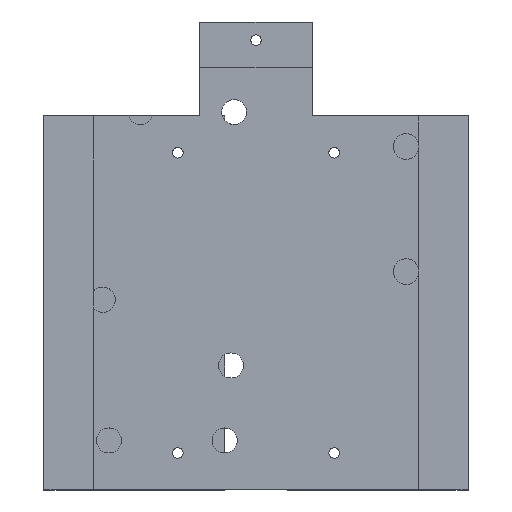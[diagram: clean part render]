
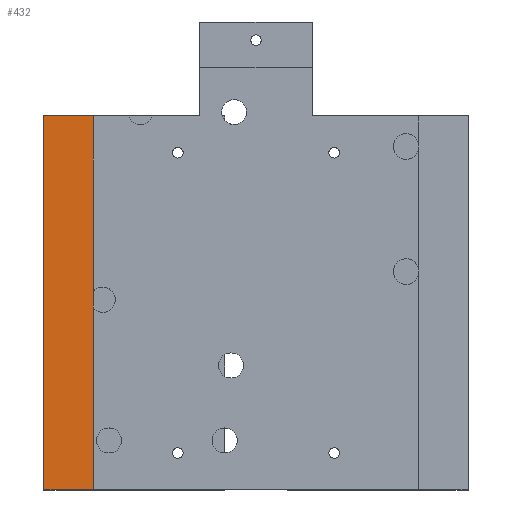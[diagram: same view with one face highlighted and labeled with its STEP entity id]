
A CAD part, top view. The second image highlights one B-rep face of the part: STEP entity #432.
In plain terms, the highlighted planar face has unit normal (0, 0, 1).
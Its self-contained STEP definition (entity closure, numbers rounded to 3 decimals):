
#24 = VERTEX_POINT('',#25);
#25 = CARTESIAN_POINT('',(-67.8,-59.8,-9.6));
#32 = PLANE('',#33);
#33 = AXIS2_PLACEMENT_3D('',#34,#35,#36);
#34 = CARTESIAN_POINT('',(-67.8,-59.8,-17.4));
#35 = DIRECTION('',(1.,0.,0.));
#36 = DIRECTION('',(0.,0.,1.));
#44 = PLANE('',#45);
#45 = AXIS2_PLACEMENT_3D('',#46,#47,#48);
#46 = CARTESIAN_POINT('',(-67.8,-59.8,-17.4));
#47 = DIRECTION('',(0.,1.,0.));
#48 = DIRECTION('',(0.,0.,1.));
#85 = VERTEX_POINT('',#86);
#86 = CARTESIAN_POINT('',(-67.8,59.8,-9.6));
#100 = PLANE('',#101);
#101 = AXIS2_PLACEMENT_3D('',#102,#103,#104);
#102 = CARTESIAN_POINT('',(-67.8,59.8,-17.4));
#103 = DIRECTION('',(0.,1.,0.));
#104 = DIRECTION('',(0.,0.,1.));
#112 = EDGE_CURVE('',#24,#85,#113,.T.);
#113 = SURFACE_CURVE('',#114,(#118,#125),.PCURVE_S1.);
#114 = LINE('',#115,#116);
#115 = CARTESIAN_POINT('',(-67.8,-59.8,-9.6));
#116 = VECTOR('',#117,1.);
#117 = DIRECTION('',(0.,1.,0.));
#118 = PCURVE('',#32,#119);
#119 = DEFINITIONAL_REPRESENTATION('',(#120),#124);
#120 = LINE('',#121,#122);
#121 = CARTESIAN_POINT('',(7.8,0.));
#122 = VECTOR('',#123,1.);
#123 = DIRECTION('',(0.,-1.));
#124 = ( GEOMETRIC_REPRESENTATION_CONTEXT(2) 
PARAMETRIC_REPRESENTATION_CONTEXT() REPRESENTATION_CONTEXT('2D SPACE',''
  ) );
#125 = PCURVE('',#126,#131);
#126 = PLANE('',#127);
#127 = AXIS2_PLACEMENT_3D('',#128,#129,#130);
#128 = CARTESIAN_POINT('',(-67.8,-59.8,-9.6));
#129 = DIRECTION('',(0.,0.,1.));
#130 = DIRECTION('',(1.,0.,0.));
#131 = DEFINITIONAL_REPRESENTATION('',(#132),#136);
#132 = LINE('',#133,#134);
#133 = CARTESIAN_POINT('',(0.,0.));
#134 = VECTOR('',#135,1.);
#135 = DIRECTION('',(0.,1.));
#136 = ( GEOMETRIC_REPRESENTATION_CONTEXT(2) 
PARAMETRIC_REPRESENTATION_CONTEXT() REPRESENTATION_CONTEXT('2D SPACE',''
  ) );
#165 = EDGE_CURVE('',#24,#166,#168,.T.);
#166 = VERTEX_POINT('',#167);
#167 = CARTESIAN_POINT('',(-52.,-59.8,-9.6));
#168 = SURFACE_CURVE('',#169,(#173,#180),.PCURVE_S1.);
#169 = LINE('',#170,#171);
#170 = CARTESIAN_POINT('',(-67.8,-59.8,-9.6));
#171 = VECTOR('',#172,1.);
#172 = DIRECTION('',(1.,0.,0.));
#173 = PCURVE('',#44,#174);
#174 = DEFINITIONAL_REPRESENTATION('',(#175),#179);
#175 = LINE('',#176,#177);
#176 = CARTESIAN_POINT('',(7.8,0.));
#177 = VECTOR('',#178,1.);
#178 = DIRECTION('',(0.,1.));
#179 = ( GEOMETRIC_REPRESENTATION_CONTEXT(2) 
PARAMETRIC_REPRESENTATION_CONTEXT() REPRESENTATION_CONTEXT('2D SPACE',''
  ) );
#180 = PCURVE('',#126,#181);
#181 = DEFINITIONAL_REPRESENTATION('',(#182),#186);
#182 = LINE('',#183,#184);
#183 = CARTESIAN_POINT('',(0.,0.));
#184 = VECTOR('',#185,1.);
#185 = DIRECTION('',(1.,0.));
#186 = ( GEOMETRIC_REPRESENTATION_CONTEXT(2) 
PARAMETRIC_REPRESENTATION_CONTEXT() REPRESENTATION_CONTEXT('2D SPACE',''
  ) );
#204 = PLANE('',#205);
#205 = AXIS2_PLACEMENT_3D('',#206,#207,#208);
#206 = CARTESIAN_POINT('',(-52.,-59.8,-9.6));
#207 = DIRECTION('',(1.,0.,0.));
#208 = DIRECTION('',(0.,0.,1.));
#432 = ADVANCED_FACE('',(#433),#126,.T.);
#433 = FACE_BOUND('',#434,.T.);
#434 = EDGE_LOOP('',(#435,#458,#459,#460));
#435 = ORIENTED_EDGE('',*,*,#436,.F.);
#436 = EDGE_CURVE('',#85,#437,#439,.T.);
#437 = VERTEX_POINT('',#438);
#438 = CARTESIAN_POINT('',(-52.,59.8,-9.6));
#439 = SURFACE_CURVE('',#440,(#444,#451),.PCURVE_S1.);
#440 = LINE('',#441,#442);
#441 = CARTESIAN_POINT('',(-67.8,59.8,-9.6));
#442 = VECTOR('',#443,1.);
#443 = DIRECTION('',(1.,0.,0.));
#444 = PCURVE('',#126,#445);
#445 = DEFINITIONAL_REPRESENTATION('',(#446),#450);
#446 = LINE('',#447,#448);
#447 = CARTESIAN_POINT('',(0.,119.6));
#448 = VECTOR('',#449,1.);
#449 = DIRECTION('',(1.,0.));
#450 = ( GEOMETRIC_REPRESENTATION_CONTEXT(2) 
PARAMETRIC_REPRESENTATION_CONTEXT() REPRESENTATION_CONTEXT('2D SPACE',''
  ) );
#451 = PCURVE('',#100,#452);
#452 = DEFINITIONAL_REPRESENTATION('',(#453),#457);
#453 = LINE('',#454,#455);
#454 = CARTESIAN_POINT('',(7.8,0.));
#455 = VECTOR('',#456,1.);
#456 = DIRECTION('',(0.,1.));
#457 = ( GEOMETRIC_REPRESENTATION_CONTEXT(2) 
PARAMETRIC_REPRESENTATION_CONTEXT() REPRESENTATION_CONTEXT('2D SPACE',''
  ) );
#458 = ORIENTED_EDGE('',*,*,#112,.F.);
#459 = ORIENTED_EDGE('',*,*,#165,.T.);
#460 = ORIENTED_EDGE('',*,*,#461,.T.);
#461 = EDGE_CURVE('',#166,#437,#462,.T.);
#462 = SURFACE_CURVE('',#463,(#467,#474),.PCURVE_S1.);
#463 = LINE('',#464,#465);
#464 = CARTESIAN_POINT('',(-52.,-59.8,-9.6));
#465 = VECTOR('',#466,1.);
#466 = DIRECTION('',(0.,1.,0.));
#467 = PCURVE('',#126,#468);
#468 = DEFINITIONAL_REPRESENTATION('',(#469),#473);
#469 = LINE('',#470,#471);
#470 = CARTESIAN_POINT('',(15.8,0.));
#471 = VECTOR('',#472,1.);
#472 = DIRECTION('',(0.,1.));
#473 = ( GEOMETRIC_REPRESENTATION_CONTEXT(2) 
PARAMETRIC_REPRESENTATION_CONTEXT() REPRESENTATION_CONTEXT('2D SPACE',''
  ) );
#474 = PCURVE('',#204,#475);
#475 = DEFINITIONAL_REPRESENTATION('',(#476),#480);
#476 = LINE('',#477,#478);
#477 = CARTESIAN_POINT('',(0.,0.));
#478 = VECTOR('',#479,1.);
#479 = DIRECTION('',(0.,-1.));
#480 = ( GEOMETRIC_REPRESENTATION_CONTEXT(2) 
PARAMETRIC_REPRESENTATION_CONTEXT() REPRESENTATION_CONTEXT('2D SPACE',''
  ) );
